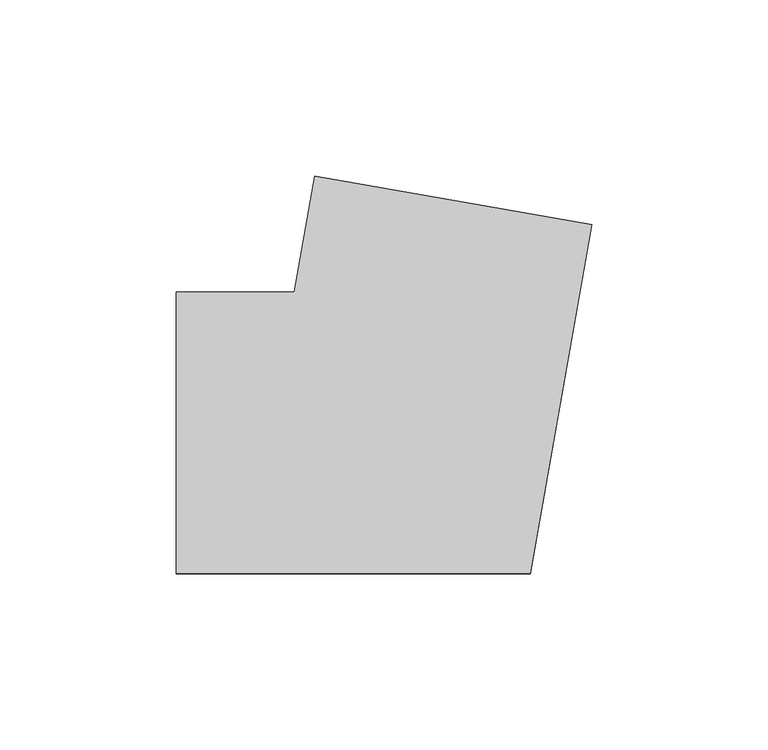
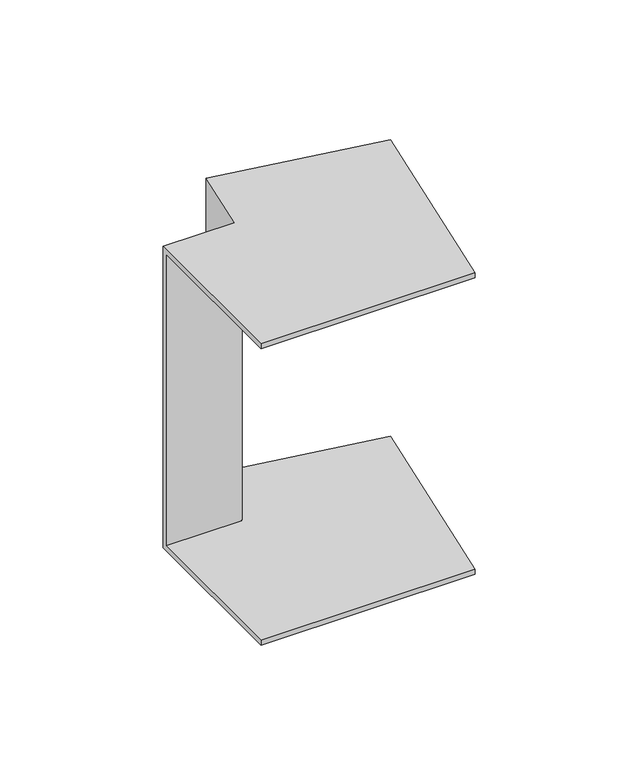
"""IFC4 building model written with IfcOpenShell, lengths in millimetres: cable carrier fitting geometry, КНС_УголВнешний_ILC_DKC : Угол внешний_DKC."""

import ifcopenshell
import ifcopenshell.guid

model = None  # the IFC model being written
_history = None  # IfcOwnerHistory: only IFC2X3 demands one
_inside = {}  # id of a spatial element -> (the spatial element, [elements in it])
_under = {}  # id of a project, library or spatial element -> (it, [spatial elements below it])
_declared = {}  # id of a project -> (the project, [libraries it declares])
_typed = {}  # id of a type object -> (the type object, [elements of that type])
_made_of = {}  # id of a material, layer set ... -> (it, [elements and type objects made of it])


def new_model(schema):
    """Start an empty IFC model of exactly this schema.

    Asked for "IFC4X3", IfcOpenShell would pick the latest addendum, in which some entities
    have other attributes; the version numbers below select the first issue.
    IFC2X3 requires an IfcOwnerHistory on every rooted entity: one is made here for all.
    """
    global model, _history
    if schema == "IFC4X3":
        model = ifcopenshell.file(schema_version=(4, 3, 0, 0))
    else:
        model = ifcopenshell.file(schema=schema)
    _inside.clear()
    _under.clear()
    _declared.clear()
    _typed.clear()
    _made_of.clear()
    _history = None
    if model.schema == "IFC2X3":
        org = make("IfcOrganization", Name="unknown")
        user = make(
            "IfcPersonAndOrganization",
            ThePerson=make("IfcPerson", FamilyName="unknown"),
            TheOrganization=org,
        )
        app = make(
            "IfcApplication",
            ApplicationDeveloper=org,
            Version="unknown",
            ApplicationFullName="unknown",
            ApplicationIdentifier="unknown",
        )
        _history = make(
            "IfcOwnerHistory",
            OwningUser=user,
            OwningApplication=app,
            ChangeAction="ADDED",
            CreationDate=0,
        )
    return model


def make(cls, **values):
    """One entity of the class cls with the attributes given. An attribute that is None is left unset."""
    return model.create_entity(
        cls, **{name: value for name, value in values.items() if value is not None}
    )


def rooted(cls, **values):
    """An entity with a GlobalId (a new one), such as an element, a storey or a relation."""
    return make(cls, GlobalId=ifcopenshell.guid.new(), OwnerHistory=_history, **values)


def si_unit(unit_type, name, prefix=None):
    """IfcSIUnit, for example si_unit("LENGTHUNIT", "METRE", prefix="MILLI")."""
    return make("IfcSIUnit", UnitType=unit_type, Prefix=prefix, Name=name)


def assignment(units):
    """IfcUnitAssignment: the units of a project."""
    return None if units is None else make("IfcUnitAssignment", Units=units)


def point(xyz):
    """IfcCartesianPoint."""
    return None if xyz is None else make("IfcCartesianPoint", Coordinates=xyz)


def direction(xyz):
    """IfcDirection."""
    return None if xyz is None else make("IfcDirection", DirectionRatios=xyz)


def frame(location, z_axis=None, x_axis=None):
    """IfcAxis2Placement3D, a coordinate frame: its origin and axes. An axis left out is left unset."""
    return make(
        "IfcAxis2Placement3D",
        Location=point(location),
        Axis=direction(z_axis),
        RefDirection=direction(x_axis),
    )


def origin():
    """The frame at (0, 0, 0) with its axes left unset."""
    return frame((0.0, 0.0, 0.0))


def place(relative_to, where):
    """IfcLocalPlacement: puts the frame where relative to a parent placement (None: the world)."""
    return make(
        "IfcLocalPlacement", PlacementRelTo=relative_to, RelativePlacement=where
    )


def context(
    kind, dimensions, precision=None, world=None, true_north=None, identifier=None
):
    """IfcGeometricRepresentationContext, for example the 3D "Model" context."""
    return make(
        "IfcGeometricRepresentationContext",
        ContextIdentifier=identifier,
        ContextType=kind,
        CoordinateSpaceDimension=dimensions,
        Precision=precision,
        WorldCoordinateSystem=world,
        TrueNorth=true_north,
    )


def project(units=None, contexts=None):
    """IfcProject with its units and contexts."""
    return rooted(
        "IfcProject",
        Name="project",
        RepresentationContexts=contexts,
        UnitsInContext=assignment(units),
    )


def spatial(cls, under=None, at=None, **own):
    """A site, building, storey or space (cls), placed at a placement, below another one or the project."""
    s = rooted(cls, ObjectPlacement=at, **own)
    if under is not None:
        _under.setdefault(under.id(), (under, []))[1].append(s)
    return s


def faces_of(points, faces, orient=None, outer=None):
    """IfcFace entities. A face is a list of loops; a loop is a list of indices into points, from 0.

    orient and outer hold one flag for each loop. By default every Orientation is true, the
    first loop of a face is its IfcFaceOuterBound and the others are IfcFaceBound.
    """
    made = []
    for i, loops in enumerate(faces):
        bounds = []
        for j, loop in enumerate(loops):
            is_outer = j == 0 if outer is None else outer[i][j]
            bounds.append(
                make(
                    "IfcFaceOuterBound" if is_outer else "IfcFaceBound",
                    Bound=make("IfcPolyLoop", Polygon=[points[k] for k in loop]),
                    Orientation=True if orient is None else orient[i][j],
                )
            )
        made.append(make("IfcFace", Bounds=bounds))
    return made


def faceted_brep(points, faces, orient=None, outer=None, voids=None):
    """IfcFacetedBrep: a solid bounded by flat faces; with voids (closed shells), ...WithVoids."""
    shared = [point(p) for p in points]
    hull = make("IfcClosedShell", CfsFaces=faces_of(shared, faces, orient, outer))
    if voids is None:
        return make("IfcFacetedBrep", Outer=hull)
    return make(
        "IfcFacetedBrepWithVoids",
        Outer=hull,
        Voids=[
            make(cls, CfsFaces=faces_of(shared, fs, o, b)) for cls, fs, o, b in voids
        ],
    )


def shape(context_of_items, identifier, shape_type, items):
    """IfcShapeRepresentation: the items that make up one representation, for example the "Body"."""
    return make(
        "IfcShapeRepresentation",
        ContextOfItems=context_of_items,
        RepresentationIdentifier=identifier,
        RepresentationType=shape_type,
        Items=items,
    )


def source(mapping_origin, context_of_items, identifier, shape_type, items):
    """IfcRepresentationMap: a shape defined once, which mapped items show again and again."""
    return make(
        "IfcRepresentationMap",
        MappingOrigin=mapping_origin,
        MappedRepresentation=shape(context_of_items, identifier, shape_type, items),
    )


def transform(
    local_origin,
    x_axis=None,
    y_axis=None,
    z_axis=None,
    scale=None,
    scale2=None,
    scale3=None,
    uniform=True,
):
    """IfcCartesianTransformationOperator3D, or its non-uniform kind. x_axis, y_axis, z_axis: its Axis1, 2, 3."""
    if uniform:
        return make(
            "IfcCartesianTransformationOperator3D",
            Axis1=direction(x_axis),
            Axis2=direction(y_axis),
            LocalOrigin=point(local_origin),
            Scale=scale,
            Axis3=direction(z_axis),
        )
    return make(
        "IfcCartesianTransformationOperator3DnonUniform",
        Axis1=direction(x_axis),
        Axis2=direction(y_axis),
        LocalOrigin=point(local_origin),
        Scale=scale,
        Axis3=direction(z_axis),
        Scale2=scale2,
        Scale3=scale3,
    )


def mapped(mapping_source, mapping_target):
    """IfcMappedItem: shows the shape of a source again, moved by a transform."""
    return make(
        "IfcMappedItem", MappingSource=mapping_source, MappingTarget=mapping_target
    )


def made_of(thing, what):
    """Note that an element or type object is made of a material, layer set ...; save() writes the relation."""
    if what is not None:
        _made_of.setdefault(what.id(), (what, []))[1].append(thing)
    return thing


def element(
    cls,
    number,
    at=None,
    inside=None,
    cuts=None,
    type_object=None,
    material=None,
    context=None,
    identifier="Body",
    shape_type=None,
    held_by="IfcProductDefinitionShape",
    body=None,
    shapes=None,
    **own,
):
    """One element of the class cls, such as IfcWall. Its Tag is "e" and its number.

    at: its placement. inside: the storey or other place that contains it. cuts: it is an
    opening in that element (IfcRelVoidsElement). A single representation is given by context,
    identifier, shape_type and body (its items); several are given by shapes. held_by: the class
    of the entity that holds the representations. save() writes the other relations.
    """
    e = rooted(cls, Tag="e%d" % number, ObjectPlacement=at, **own)
    if body is not None:
        shapes = [shape(context, identifier, shape_type, body)]
    if shapes is not None:
        e.Representation = make(held_by, Representations=shapes)
    if inside is not None:
        _inside.setdefault(inside.id(), (inside, []))[1].append(e)
    if cuts is not None:
        rooted(
            "IfcRelVoidsElement", RelatingBuildingElement=cuts, RelatedOpeningElement=e
        )
    if type_object is not None:
        _typed.setdefault(type_object.id(), (type_object, []))[1].append(e)
    return made_of(e, material)


def aggregate(whole, parts):
    """IfcRelAggregates: a whole, such as a stair, and the parts it consists of."""
    return rooted("IfcRelAggregates", RelatingObject=whole, RelatedObjects=parts)


def save(model, path):
    """Write the relations noted so far, then the file.

    IfcRelAggregates (storeys below a building ...), IfcRelContainedInSpatialStructure (elements
    in a storey), IfcRelDefinesByType, IfcRelAssociatesMaterial and IfcRelDeclares: one each for
    every whole, place, type object, material and project.
    """
    for whole, parts in _under.values():
        aggregate(whole, parts)
    for where, things in _inside.values():
        rooted(
            "IfcRelContainedInSpatialStructure",
            RelatedElements=things,
            RelatingStructure=where,
        )
    for kind, things in _typed.values():
        rooted("IfcRelDefinesByType", RelatedObjects=things, RelatingType=kind)
    for what, things in _made_of.values():
        rooted("IfcRelAssociatesMaterial", RelatedObjects=things, RelatingMaterial=what)
    for by, libraries in _declared.values():
        rooted("IfcRelDeclares", RelatingContext=by, RelatedDefinitions=libraries)
    model.write(path)


def cable_carrier_fitting_2194a555(model_context):
    return source(origin(), model_context, "Body", "Brep", [
        faceted_brep([(-67.1279705, 40.0, 75.0), (-67.1279705, 40.0, -75.0), (-67.1279705, -40.0, -75.0), (-67.1279705, -40.0, -72.5), (-67.1279705, 37.5, -72.5), (-67.1279705, 37.5, 72.5), (-67.1279705, -40.0, 72.5), (-67.1279705, -40.0, 75.0), (-27.7356604, 73.0540729, 75.0), (51.0489599, 59.1622187, 75.0), (51.0489599, 59.1622187, 72.5), (-25.273641, 72.6199524, 72.5), (-25.273641, 72.6199524, -72.5), (51.0489599, 59.1622187, -72.5), (51.0489599, 59.1622187, -75.0), (-27.7356604, 73.0540729, -75.0), (-33.5639852, 40.0, 75.0), (-33.5639852, 40.0, -75.0), (33.5639852, -40.0, -75.0), (33.5639852, -40.0, -72.5), (-31.4662362, 37.5, -72.5), (-31.4662362, 37.5, 72.5), (33.5639852, -40.0, 72.5), (33.5639852, -40.0, 75.0)], [[[0, 1, 2, 3, 4, 5, 6, 7]], [[8, 9, 10, 11, 12, 13, 14, 15]], [[1, 0, 16, 17]], [[2, 1, 17, 15, 14, 18]], [[3, 2, 18, 19]], [[4, 3, 19, 13, 12, 20]], [[5, 4, 20, 21]], [[6, 5, 21, 11, 10, 22]], [[7, 6, 22, 23]], [[0, 7, 23, 9, 8, 16]], [[17, 16, 8, 15]], [[19, 18, 14, 13]], [[21, 20, 12, 11]], [[23, 22, 10, 9]]]),
    ])


if __name__ == "__main__":
    model = new_model("IFC4")
    model_context = context("Model", 3, world=origin())
    ifc_project = project(units=[si_unit("LENGTHUNIT", "METRE", prefix="MILLI")], contexts=[model_context])
    site = spatial("IfcSite", under=ifc_project)
    building = spatial("IfcBuilding", under=site)
    placement = place(None, origin())
    cable_carrier_fitting_shape = cable_carrier_fitting_2194a555(model_context)
    element("IfcCableCarrierFitting", 1, ObjectType="КНС_УголВнешний_ILC_DKC : Угол внешний_DKC", at=placement, inside=building, context=model_context, shape_type="MappedRepresentation", body=[
        mapped(cable_carrier_fitting_shape, transform((0.0, 0.0, 0.0), x_axis=(1.0, 0.0, 0.0), y_axis=(0.0, 1.0, 0.0), z_axis=(0.0, 0.0, 1.0))),
    ])
    save(model, "model.ifc")
